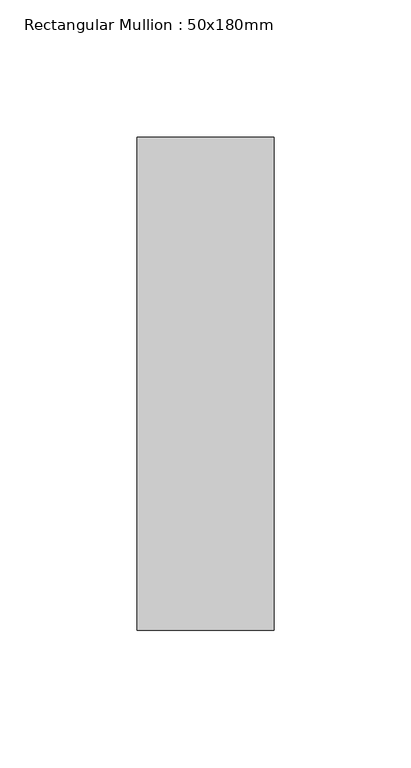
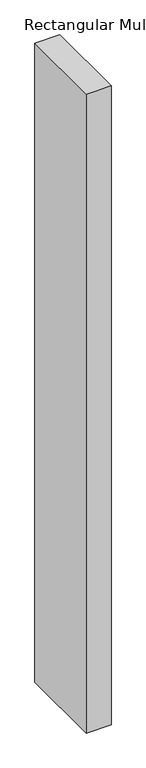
"""IFC4 building model written with IfcOpenShell, lengths in millimetres: member geometry, Rectangular Mullion : 50x180mm."""

from ifc_helpers import new_model, si_unit, frame, origin, place, context, project, spatial, polyline, outline, extrude, source, transform, mapped, element, save


def rectangular_mullion_50x180mm_dfb20434(model_context):
    return source(origin(), model_context, "Body", "SweptSolid", [
        extrude(outline(polyline([(25.0, 90.0), (25.0, -90.0), (-25.0, -90.0), (-25.0, 90.0), (25.0, 90.0)])), frame((0.0, 0.0, -1365.8333333), z_axis=(0.0, 0.0, 1.0), x_axis=(1.0, 0.0, 0.0)), (0.0, 0.0, 1.0), 1365.8333333),
    ])


if __name__ == "__main__":
    model = new_model("IFC4")
    model_context = context("Model", 3, world=origin())
    ifc_project = project(units=[si_unit("LENGTHUNIT", "METRE", prefix="MILLI")], contexts=[model_context])
    site = spatial("IfcSite", under=ifc_project)
    building = spatial("IfcBuilding", under=site)
    placement = place(None, origin())
    rectangular_mullion_50x180mm_shape = rectangular_mullion_50x180mm_dfb20434(model_context)
    element("IfcMember", 1, ObjectType="Rectangular Mullion : 50x180mm", at=placement, inside=building, context=model_context, shape_type="MappedRepresentation", body=[
        mapped(rectangular_mullion_50x180mm_shape, transform((0.0, 0.0, 0.0), x_axis=(1.0, 0.0, 0.0), y_axis=(0.0, 1.0, 0.0), z_axis=(0.0, 0.0, 1.0))),
    ])
    save(model, "model.ifc")
